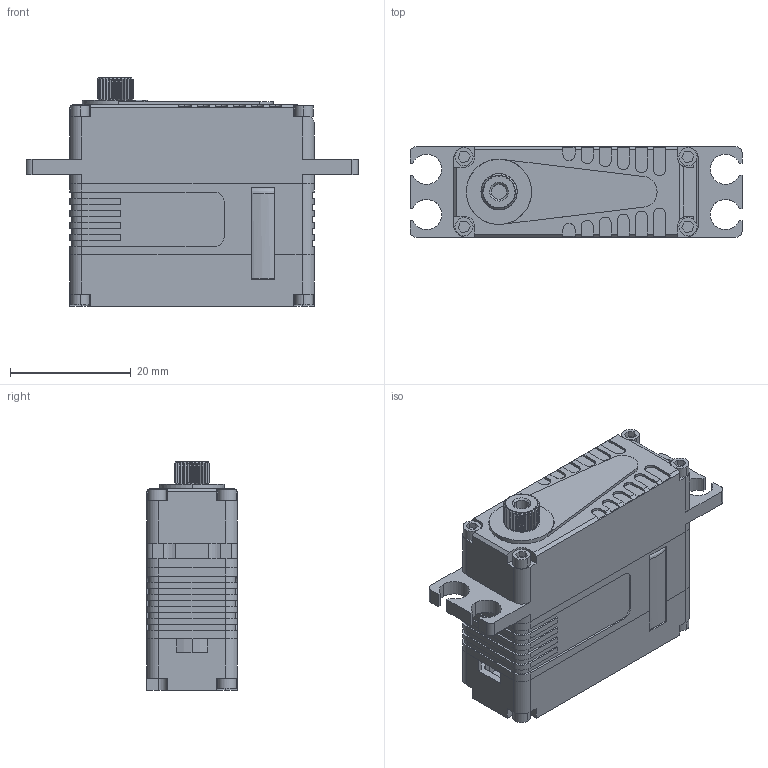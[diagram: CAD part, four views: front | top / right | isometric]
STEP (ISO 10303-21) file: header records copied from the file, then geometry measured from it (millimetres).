
FILE_DESCRIPTION (( 'STEP AP214' ), '1' );
FILE_NAME ('A15-2212_DM.STEP', '2023-11-09T02:49:43', ( '' ), ( '' ), 'SwSTEP 2.0', 'SolidWorks 2016', '' );
FILE_SCHEMA (( 'AUTOMOTIVE_DESIGN' ));
Length unit declared in the file: millimetre
Products named in the file (1): A15-2212_DM
Bounding box: 55 x 15 x 37.82 mm (x, y, z)
Surface area: 8831.4 mm2 (no closed solid volume)
Topology: 0 solids, 18 shells, 540 faces, 1781 edges, 1262 vertices
Faces by surface type: plane 309, cylinder 186, cone 43, bspline 2
Entity records: 25649 total; most frequent: CARTESIAN_POINT 3985, DIRECTION 3310, ORIENTED_EDGE 3137, EDGE_CURVE 1781, VERTEX_POINT 1262, AXIS2_PLACEMENT_3D 1111, LINE 1088, VECTOR 1088
